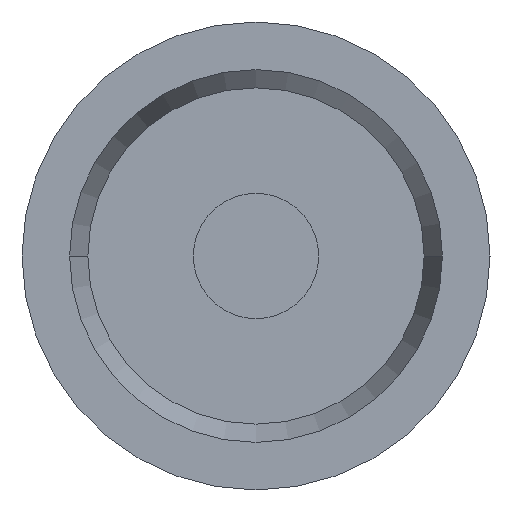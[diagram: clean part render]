
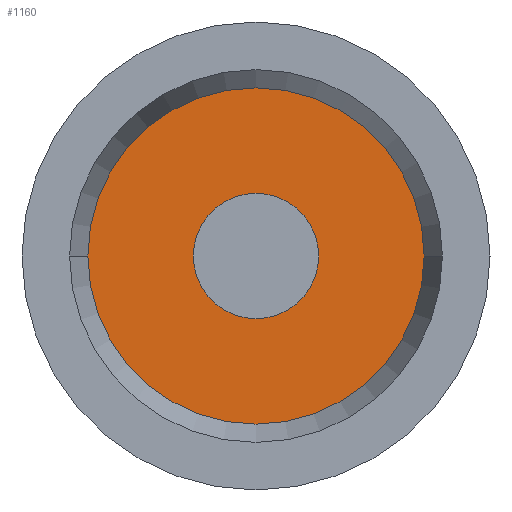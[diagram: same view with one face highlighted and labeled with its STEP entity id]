
A CAD part, left-side view. The second image highlights one B-rep face of the part: STEP entity #1160.
In plain terms, the highlighted planar face has unit normal (-1, 0, 0).
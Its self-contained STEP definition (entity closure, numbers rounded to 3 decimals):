
#730=CARTESIAN_POINT('',(0.,-0.861,0.861));
#740=DIRECTION('',(1.,0.,0.));
#750=DIRECTION('',(0.,-1.,0.));
#760=AXIS2_PLACEMENT_3D('',#730,#740,#750);
#770=PLANE('',#760);
#780=CARTESIAN_POINT('',(0.,0.,0.)
);
#790=DIRECTION('',(1.,-0.,-0.));
#800=DIRECTION('',(0.,1.,0.));
#810=AXIS2_PLACEMENT_3D('',#780,#790,#800);
#820=CIRCLE('',#810,0.851);
#830=CARTESIAN_POINT('',(0.,0.,-0.851));
#840=VERTEX_POINT('',#830);
#850=CARTESIAN_POINT('',(0.,0.851,0.));
#860=VERTEX_POINT('',#850);
#870=EDGE_CURVE('',#840,#860,#820,.T.);
#880=ORIENTED_EDGE('',*,*,#870,.F.);
#890=CARTESIAN_POINT('',(0.,-0.851,0.));
#900=VERTEX_POINT('',#890);
#910=EDGE_CURVE('',#860,#900,#820,.T.);
#920=ORIENTED_EDGE('',*,*,#910,.F.);
#930=EDGE_CURVE('',#900,#840,#820,.T.);
#940=ORIENTED_EDGE('',*,*,#930,.F.);
#950=EDGE_LOOP('',(#940,#920,#880));
#960=FACE_OUTER_BOUND('',#950,.T.);
#970=CARTESIAN_POINT('',(0.,0.,0.));
#980=DIRECTION('',(1.,-0.,-0.));
#990=DIRECTION('',(0.,1.,0.));
#1000=AXIS2_PLACEMENT_3D('',#970,#980,#990);
#1010=CIRCLE('',#1000,0.318);
#1020=CARTESIAN_POINT('',(0.,-0.318,0.));
#1030=VERTEX_POINT('',#1020);
#1040=CARTESIAN_POINT('',(0.,0.318,0.));
#1050=VERTEX_POINT('',#1040);
#1060=EDGE_CURVE('',#1030,#1050,#1010,.T.);
#1070=ORIENTED_EDGE('',*,*,#1060,.T.);
#1080=CARTESIAN_POINT('',(0.,0.,0.318));
#1090=VERTEX_POINT('',#1080);
#1100=EDGE_CURVE('',#1090,#1030,#1010,.T.);
#1110=ORIENTED_EDGE('',*,*,#1100,.T.);
#1120=EDGE_CURVE('',#1050,#1090,#1010,.T.);
#1130=ORIENTED_EDGE('',*,*,#1120,.T.);
#1140=EDGE_LOOP('',(#1130,#1110,#1070));
#1150=FACE_BOUND('',#1140,.T.);
#1160=ADVANCED_FACE('',(#960,#1150),#770,.F.);
